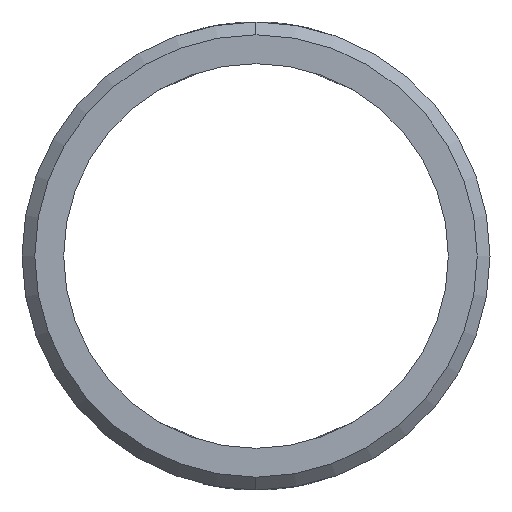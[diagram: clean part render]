
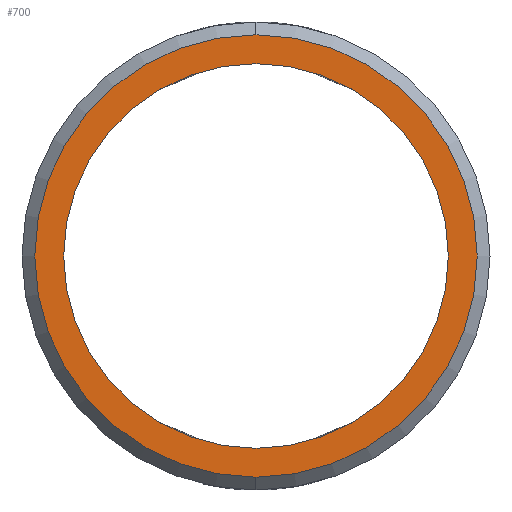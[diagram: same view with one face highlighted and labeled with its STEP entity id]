
A CAD part, left-side view. The second image highlights one B-rep face of the part: STEP entity #700.
In plain terms, the highlighted planar face has unit normal (-1, 0, 0).
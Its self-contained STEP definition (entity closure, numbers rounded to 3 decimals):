
#50 = CARTESIAN_POINT ( 'NONE',  ( -100., 0., -15. ) ) ;
#65 = CIRCLE ( 'NONE', #277, 15. ) ;
#83 = VERTEX_POINT ( 'NONE', #1007 ) ;
#105 = VERTEX_POINT ( 'NONE', #292 ) ;
#112 = CARTESIAN_POINT ( 'NONE',  ( -100., 0., 0. ) ) ;
#114 = EDGE_CURVE ( 'NONE', #105, #713, #626, .T. ) ;
#121 = DIRECTION ( 'NONE',  ( 1., 0., 0. ) ) ;
#145 = AXIS2_PLACEMENT_3D ( 'NONE', #824, #121, #564 ) ;
#182 = DIRECTION ( 'NONE',  ( 0., 0., -1. ) ) ;
#217 = ORIENTED_EDGE ( 'NONE', *, *, #895, .T. ) ;
#265 = CARTESIAN_POINT ( 'NONE',  ( -100., 0., 0. ) ) ;
#277 = AXIS2_PLACEMENT_3D ( 'NONE', #756, #316, #840 ) ;
#279 = DIRECTION ( 'NONE',  ( -1., 0., 0. ) ) ;
#291 = FACE_BOUND ( 'NONE', #793, .T. ) ;
#292 = CARTESIAN_POINT ( 'NONE',  ( -100., 0., -17.25 ) ) ;
#316 = DIRECTION ( 'NONE',  ( 1., 0., 0. ) ) ;
#376 = DIRECTION ( 'NONE',  ( 1., 0., 0. ) ) ;
#449 = PLANE ( 'NONE',  #956 ) ;
#471 = DIRECTION ( 'NONE',  ( -1., 0., 0. ) ) ;
#482 = EDGE_CURVE ( 'NONE', #963, #83, #671, .T. ) ;
#524 = ORIENTED_EDGE ( 'NONE', *, *, #482, .T. ) ;
#564 = DIRECTION ( 'NONE',  ( 0., 0., -1. ) ) ;
#626 = CIRCLE ( 'NONE', #929, 17.25 ) ;
#627 = CARTESIAN_POINT ( 'NONE',  ( -100., 0., 17.25 ) ) ;
#671 = CIRCLE ( 'NONE', #145, 15. ) ;
#700 = ADVANCED_FACE ( 'NONE', ( #1063, #291 ), #449, .F. ) ;
#713 = VERTEX_POINT ( 'NONE', #627 ) ;
#719 = EDGE_CURVE ( 'NONE', #713, #105, #1142, .T. ) ;
#756 = CARTESIAN_POINT ( 'NONE',  ( -100., 0., 0. ) ) ;
#793 = EDGE_LOOP ( 'NONE', ( #217, #524 ) ) ;
#805 = DIRECTION ( 'NONE',  ( 0., 0., -1. ) ) ;
#824 = CARTESIAN_POINT ( 'NONE',  ( -100., 0., 0. ) ) ;
#827 = DIRECTION ( 'NONE',  ( 0., 0., -1. ) ) ;
#840 = DIRECTION ( 'NONE',  ( 0., 0., -1. ) ) ;
#895 = EDGE_CURVE ( 'NONE', #83, #963, #65, .T. ) ;
#929 = AXIS2_PLACEMENT_3D ( 'NONE', #112, #471, #827 ) ;
#956 = AXIS2_PLACEMENT_3D ( 'NONE', #265, #376, #805 ) ;
#963 = VERTEX_POINT ( 'NONE', #50 ) ;
#988 = EDGE_LOOP ( 'NONE', ( #1140, #1070 ) ) ;
#1007 = CARTESIAN_POINT ( 'NONE',  ( -100., 0., 15. ) ) ;
#1049 = AXIS2_PLACEMENT_3D ( 'NONE', #1069, #279, #182 ) ;
#1063 = FACE_OUTER_BOUND ( 'NONE', #988, .T. ) ;
#1069 = CARTESIAN_POINT ( 'NONE',  ( -100., 0., 0. ) ) ;
#1070 = ORIENTED_EDGE ( 'NONE', *, *, #719, .T. ) ;
#1140 = ORIENTED_EDGE ( 'NONE', *, *, #114, .T. ) ;
#1142 = CIRCLE ( 'NONE', #1049, 17.25 ) ;
